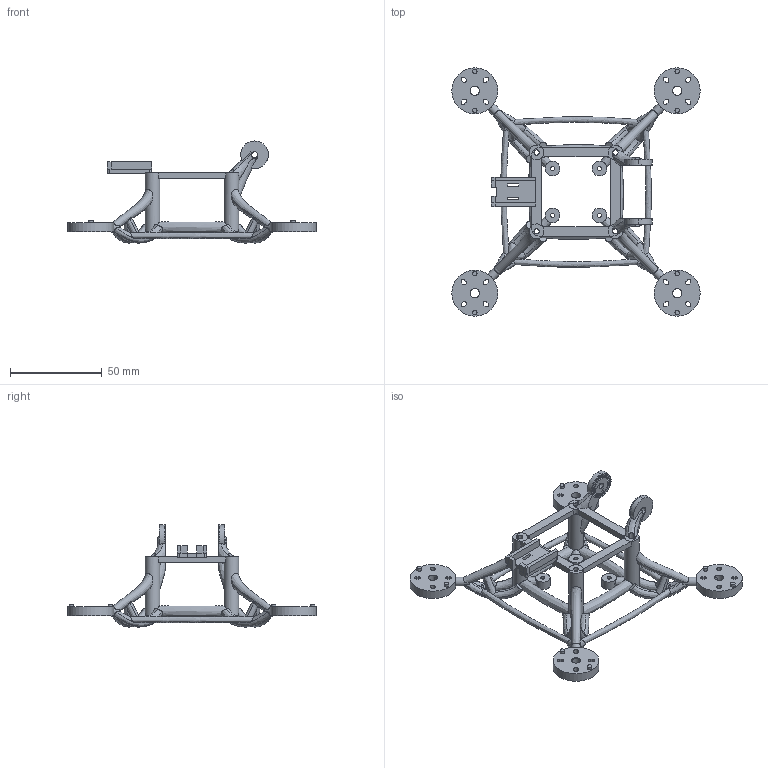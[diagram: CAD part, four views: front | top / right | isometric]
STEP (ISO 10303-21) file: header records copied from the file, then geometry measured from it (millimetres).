
FILE_DESCRIPTION(('Open CASCADE Model'),'2;1');
FILE_NAME('Open CASCADE Shape Model','2026-10-11T00:33:24',('Author'),( 'Open CASCADE'),'Open CASCADE STEP processor 7.8','Open CASCADE 7.8' ,'Unknown');
FILE_SCHEMA(('AUTOMOTIVE_DESIGN { 1 0 10303 214 1 1 1 1 }'));
Products named in the file (1): Open CASCADE STEP translator 7.8 1
Bounding box: 135 x 135 x 55.51 mm (x, y, z)
Volume: 35463.6 mm3; surface area: 28183.5 mm2
Topology: 1 solids, 1 shells, 671 faces, 1923 edges, 1252 vertices
Faces by surface type: plane 444, cylinder 126, bspline 101
Full cylindrical faces by diameter (mm): 2.3 x4, 2.4 x8, 2.9 x4, 3.3 x2, 4.8 x4, 5 x4, 8 x4, 25 x4
Entity records: 149556 total; most frequent: CARTESIAN_POINT 115925, DIRECTION 4728, ORIENTED_EDGE 3842, PCURVE 3842, DEFINITIONAL_REPRESENTATION 3842, LINE 2853, VECTOR 2853, B_SPLINE_CURVE_WITH_KNOTS 2235
